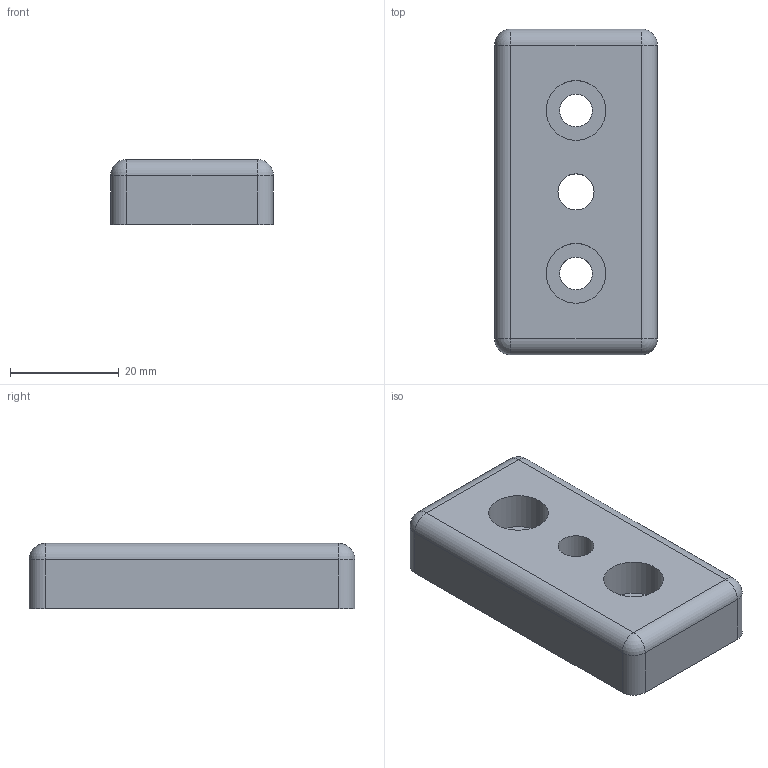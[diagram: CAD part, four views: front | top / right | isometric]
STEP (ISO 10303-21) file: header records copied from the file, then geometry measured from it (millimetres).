
FILE_DESCRIPTION(/* description */ ('STEP AP214'),/* implementation_level */ '2;1');
FILE_NAME(/* name */ 'Transport and Base Plate GN 80i-30606M8-A-ZS',/* time_stamp */ '2024-08-22T14:59:47+02:00',/* author */ ('License CC BY-ND 4.0'),/* organization */ ('CADENAS'),/* preprocessor_version */ 'ST-DEVELOPER v19.3',/* originating_system */ 'PARTsolutions',/* authorisation */ ' ');
FILE_SCHEMA (('AUTOMOTIVE_DESIGN {1 0 10303 214 3 1 1}'));
Length unit declared in the file: millimetre
Products named in the file (1): Transport and Base Plate GN 80i-30606M8-A-ZS
Bounding box: 30 x 60 x 12 mm (x, y, z)
Volume: 19148.1 mm3; surface area: 6194 mm2
Topology: 1 solids, 1 shells, 25 faces, 55 edges, 30 vertices
Faces by surface type: cylinder 13, plane 8, sphere 4
Full cylindrical faces by diameter (mm): 6 x2, 6.647 x1, 11 x2
Entity records: 672 total; most frequent: DIRECTION 124, CARTESIAN_POINT 102, ORIENTED_EDGE 92, AXIS2_PLACEMENT_3D 52, EDGE_CURVE 46, EDGE_LOOP 38, FACE_BOUND 38, VERTEX_POINT 30
